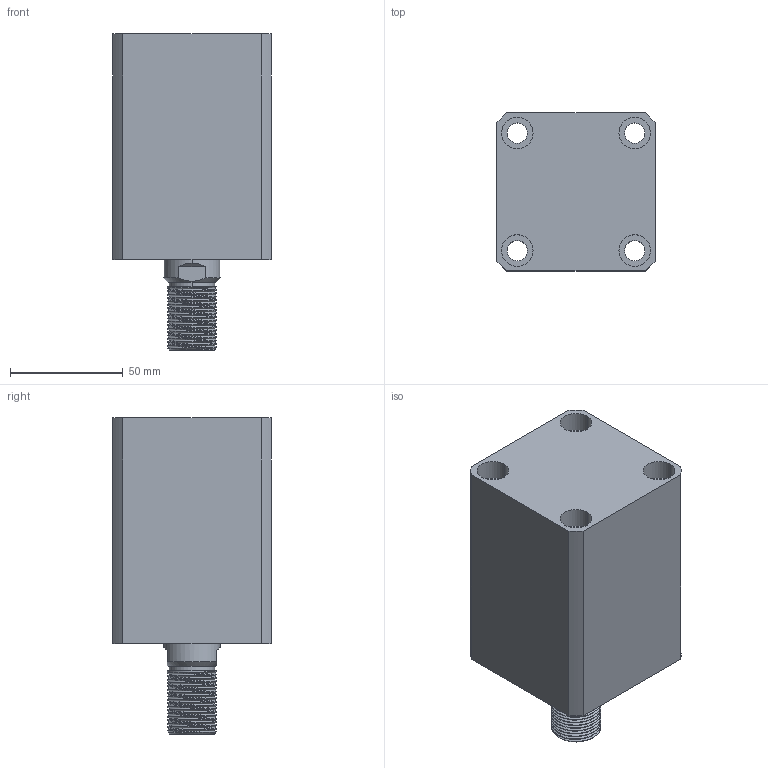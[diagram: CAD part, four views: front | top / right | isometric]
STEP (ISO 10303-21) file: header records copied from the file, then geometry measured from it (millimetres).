
FILE_DESCRIPTION (( 'STEP AP214' ), '1' );
FILE_NAME ('chtb-sd40x45w_asm.STEP', '2018-06-08T02:49:51', ( 'Windows' ), ( 'Microsoft' ), 'SwSTEP 2.0', 'SolidWorks 2015', '' );
FILE_SCHEMA (( 'AUTOMOTIVE_DESIGN' ));
Length unit declared in the file: millimetre
Products named in the file (4): CHTB-SD40X45WHSG; CHTB-SD40X45NBT; CHTB-SD40QG; chtb-sd40x45w_asm
Assembly tree (3 placements, depth 2):
  chtb-sd40x45w_asm
    CHTB-SD40QG
    CHTB-SD40X45NBT
    CHTB-SD40X45WHSG
Bounding box: 70 x 70 x 140 mm (x, y, z)
Volume: 428779.3 mm3; surface area: 87907.3 mm2
Topology: 3 solids, 4 shells, 203 faces, 533 edges, 355 vertices
Faces by surface type: cylinder 118, plane 40, bspline 16, cone 15, torus 14
Entity records: 13425 total; most frequent: CARTESIAN_POINT 8554, ORIENTED_EDGE 1054, DIRECTION 914, EDGE_CURVE 527, AXIS2_PLACEMENT_3D 380, VERTEX_POINT 355, EDGE_LOOP 240, ADVANCED_FACE 203
